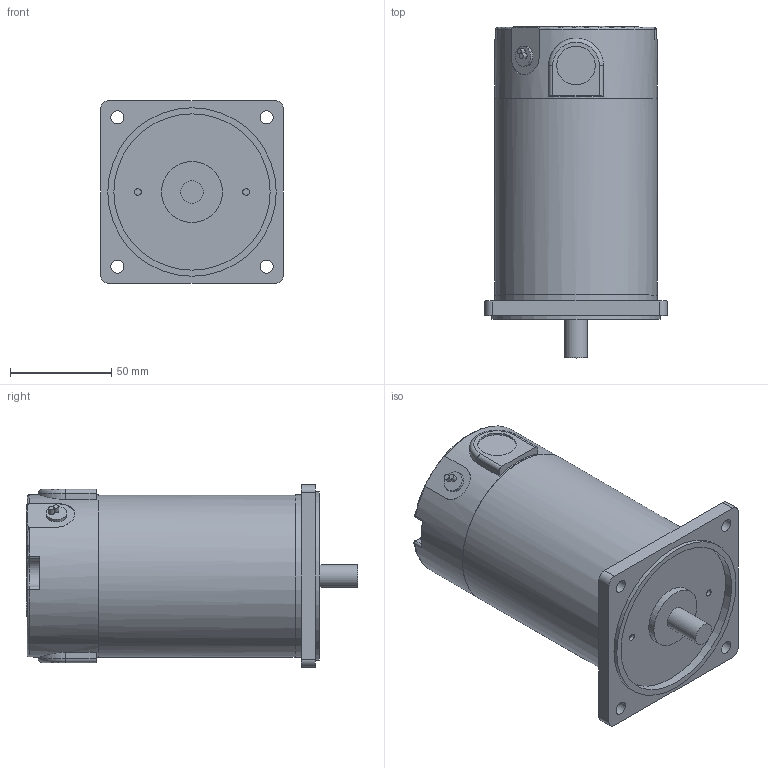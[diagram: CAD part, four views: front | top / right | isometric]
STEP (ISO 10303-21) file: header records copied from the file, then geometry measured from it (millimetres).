
FILE_DESCRIPTION((''),'2;1');
FILE_NAME('E:\2공장-도면\3D\표준형 3D(민규)\step file\DC모터\K9DG60Nㅁ.stp','2014-11-24T17:16:31',('AHN'),(''),'Autodesk Inventor 2012','Autodesk Inventor 2012','');
FILE_SCHEMA(('CONFIG_CONTROL_DESIGN'));
Length unit declared in the file: millimetre
Products named in the file (1): K9DG60N
Bounding box: 90 x 163.5 x 90 mm (x, y, z)
Volume: 732716.7 mm3; surface area: 56850.4 mm2
Topology: 1 solids, 1 shells, 127 faces, 286 edges, 182 vertices
Faces by surface type: plane 61, cylinder 55, torus 7, sphere 4
Full cylindrical faces by diameter (mm): 2.6 x2, 3.4 x2, 6.5 x4, 10 x1, 11.3 x1, 19 x2, 30 x2, 77 x1, 80 x2, 80.1 x1, 83 x1
Entity records: 3570 total; most frequent: CARTESIAN_POINT 669, DIRECTION 640, ORIENTED_EDGE 530, EDGE_CURVE 265, AXIS2_PLACEMENT_3D 252, VERTEX_POINT 179, EDGE_LOOP 175, VECTOR 136
